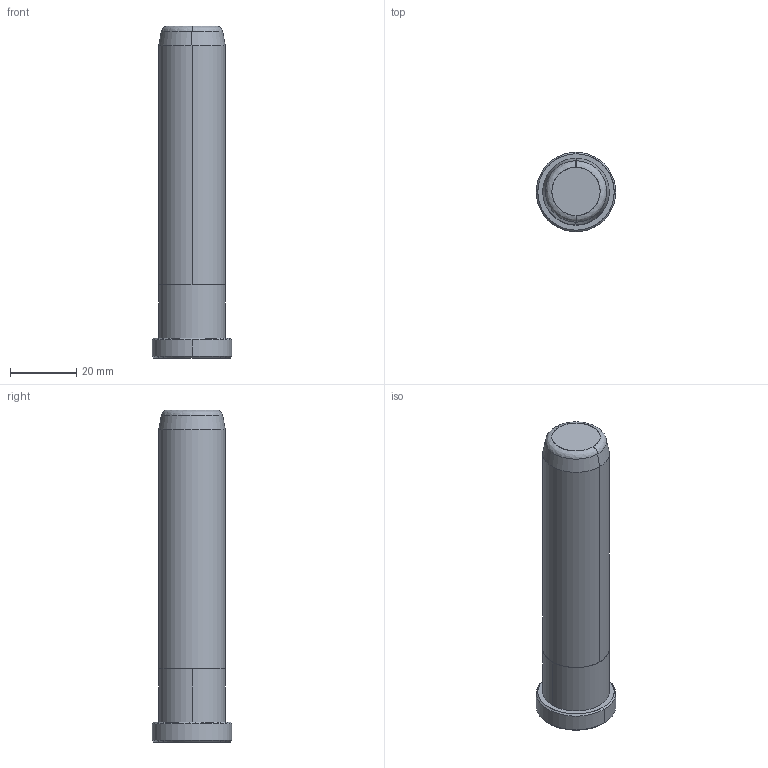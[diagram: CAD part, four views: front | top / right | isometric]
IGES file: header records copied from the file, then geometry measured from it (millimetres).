
Start section: START RECORD GO HERE.
Global section: file name: B80820100.igs; native system: DASSAULT SYSTEMES CATIA V5 R20 - www.3ds.com; preprocessor: CATIA Version 5 Release 20 ; author: Utente; organization: NB04-ASUS; date: 20200419.165155; units: millimetre
Bounding box: 24 x 24 x 100 mm (x, y, z)
Surface area: 7109.1 mm2 (no closed solid volume)
Topology: 0 solids, 0 shells, 20 faces, 80 edges, 80 vertices
Faces by surface type: revolution 16, plane 4
